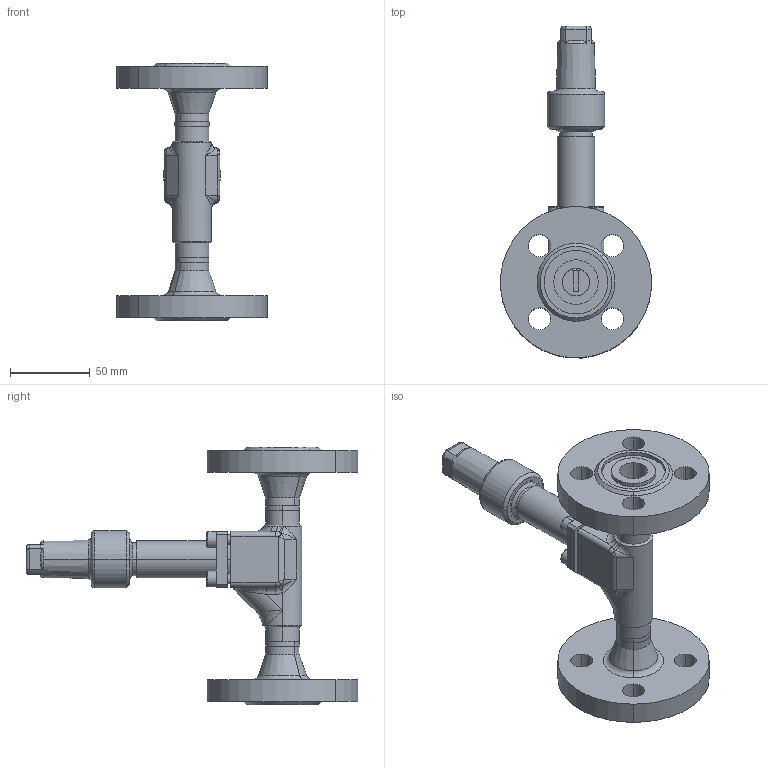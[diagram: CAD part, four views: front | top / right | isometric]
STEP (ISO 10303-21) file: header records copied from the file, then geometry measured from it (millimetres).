
FILE_DESCRIPTION (( 'STEP AP214' ), '1' );
FILE_NAME ('AVR96330-DN015_DIN-FL-N_PS40.STEP', '2006-05-02T07:57:59', ( 'Herr Grams' ), ( 'AWP GmbH' ), 'SwSTEP 2.0', 'SolidWorks 2002296', '' );
FILE_SCHEMA (( 'AUTOMOTIVE_DESIGN' ));
Length unit declared in the file: millimetre
Products named in the file (10): AVR96330-DN015_DIN-FL-N_PS40; Kappe96300E10_DN6-20_Standard; Geh-kpl96320E10-DN15_PS40_DIN-FL_Standard; Gehäuse96300E10-DN15_PS40_R1_Standard; Flansch-DIN2635-Nut_PS40_DIN-Flansch-DN015_PS40-Nut; bead963-DN015-2_Standard; bead963-DN015-1_Standard; AVR96310E10_Deck+Schr-DN6-15_Standard; Deckel96310E10-DN6-15_PS40_Standard; Zylinderschraube-DIN912_M 6x 18
Assembly tree (13 placements, depth 3):
  AVR96330-DN015_DIN-FL-N_PS40
    Kappe96300E10_DN6-20_Standard
    AVR96310E10_Deck+Schr-DN6-15_Standard
      Zylinderschraube-DIN912_M 6x 18  x4
      Deckel96310E10-DN6-15_PS40_Standard
    Geh-kpl96320E10-DN15_PS40_DIN-FL_Standard
      Flansch-DIN2635-Nut_PS40_DIN-Flansch-DN015_PS40-Nut  x2
      bead963-DN015-1_Standard
      Gehäuse96300E10-DN15_PS40_R1_Standard
      bead963-DN015-2_Standard
Bounding box: 94.64 x 208.32 x 162 mm (x, y, z)
Volume: 305446.6 mm3; surface area: 87177.5 mm2
Topology: 11 solids, 11 shells, 339 faces, 783 edges, 481 vertices
Faces by surface type: cylinder 127, plane 100, cone 47, bspline 37, torus 28
Entity records: 21592 total; most frequent: CARTESIAN_POINT 15210, ORIENTED_EDGE 1178, DIRECTION 1160, EDGE_CURVE 589, AXIS2_PLACEMENT_3D 485, VERTEX_POINT 363, EDGE_LOOP 292, ADVANCED_FACE 253
